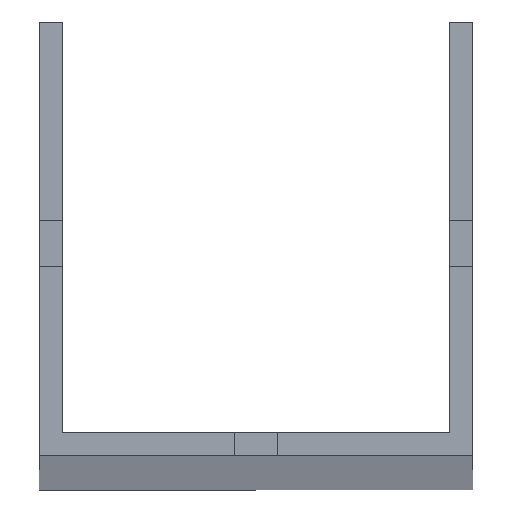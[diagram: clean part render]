
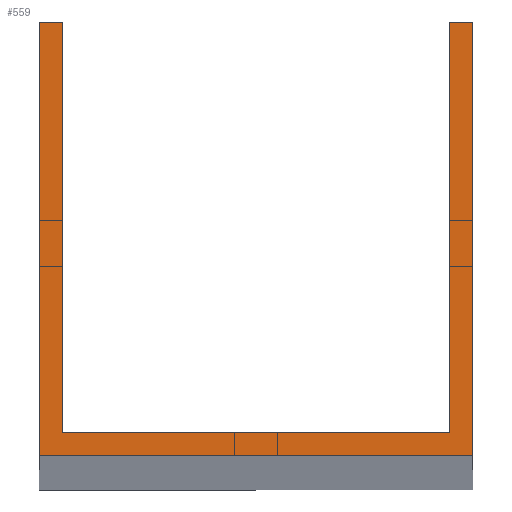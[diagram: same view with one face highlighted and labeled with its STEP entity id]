
A CAD part, top view. The second image highlights one B-rep face of the part: STEP entity #559.
In plain terms, the highlighted planar face has unit normal (0, 0, 1).
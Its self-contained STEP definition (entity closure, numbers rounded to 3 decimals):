
#1 = CARTESIAN_POINT ( 'NONE',  ( 0., 0., 1500. ) ) ;
#3 = VERTEX_POINT ( 'NONE', #555 ) ;
#23 = VERTEX_POINT ( 'NONE', #303 ) ;
#26 = VERTEX_POINT ( 'NONE', #1014 ) ;
#52 = CARTESIAN_POINT ( 'NONE',  ( -29.25, 65.5, 1500. ) ) ;
#55 = ORIENTED_EDGE ( 'NONE', *, *, #286, .T. ) ;
#74 = FACE_OUTER_BOUND ( 'NONE', #969, .T. ) ;
#85 = DIRECTION ( 'NONE',  ( 1., 0., 0. ) ) ;
#97 = LINE ( 'NONE', #835, #357 ) ;
#130 = VERTEX_POINT ( 'NONE', #343 ) ;
#178 = LINE ( 'NONE', #1134, #775 ) ;
#185 = LINE ( 'NONE', #1059, #1025 ) ;
#232 = LINE ( 'NONE', #505, #363 ) ;
#238 = CARTESIAN_POINT ( 'NONE',  ( -29.25, 65.5, 1500. ) ) ;
#286 = EDGE_CURVE ( 'NONE', #130, #564, #185, .T. ) ;
#298 = EDGE_CURVE ( 'NONE', #299, #3, #460, .T. ) ;
#299 = VERTEX_POINT ( 'NONE', #904 ) ;
#303 = CARTESIAN_POINT ( 'NONE',  ( -29.25, 3.5, 1500. ) ) ;
#333 = CARTESIAN_POINT ( 'NONE',  ( 32.75, 65.5, 1500. ) ) ;
#342 = DIRECTION ( 'NONE',  ( 0., 0., 1. ) ) ;
#343 = CARTESIAN_POINT ( 'NONE',  ( -32.75, 65.5, 1500. ) ) ;
#357 = VECTOR ( 'NONE', #1086, 1000. ) ;
#363 = VECTOR ( 'NONE', #924, 1000. ) ;
#396 = ORIENTED_EDGE ( 'NONE', *, *, #880, .F. ) ;
#409 = DIRECTION ( 'NONE',  ( 1., 0., 0. ) ) ;
#433 = CARTESIAN_POINT ( 'NONE',  ( -32.75, 0., 1500. ) ) ;
#460 = LINE ( 'NONE', #536, #668 ) ;
#505 = CARTESIAN_POINT ( 'NONE',  ( -32.75, 3.5, 1500. ) ) ;
#533 = ORIENTED_EDGE ( 'NONE', *, *, #893, .T. ) ;
#536 = CARTESIAN_POINT ( 'NONE',  ( 29.25, 65.5, 1500. ) ) ;
#555 = CARTESIAN_POINT ( 'NONE',  ( 29.25, 65.5, 1500. ) ) ;
#556 = VECTOR ( 'NONE', #697, 1000. ) ;
#559 = ADVANCED_FACE ( 'NONE', ( #74 ), #1052, .T. ) ;
#564 = VERTEX_POINT ( 'NONE', #433 ) ;
#593 = DIRECTION ( 'NONE',  ( -1., 0., 0. ) ) ;
#627 = ORIENTED_EDGE ( 'NONE', *, *, #985, .T. ) ;
#668 = VECTOR ( 'NONE', #1065, 1000. ) ;
#697 = DIRECTION ( 'NONE',  ( 0., -1., 0. ) ) ;
#702 = EDGE_CURVE ( 'NONE', #906, #130, #97, .T. ) ;
#734 = AXIS2_PLACEMENT_3D ( 'NONE', #1, #342, #85 ) ;
#751 = VECTOR ( 'NONE', #943, 1000. ) ;
#763 = VERTEX_POINT ( 'NONE', #913 ) ;
#775 = VECTOR ( 'NONE', #593, 1000. ) ;
#782 = LINE ( 'NONE', #333, #751 ) ;
#834 = ORIENTED_EDGE ( 'NONE', *, *, #850, .T. ) ;
#835 = CARTESIAN_POINT ( 'NONE',  ( -32.75, 65.5, 1500. ) ) ;
#837 = ORIENTED_EDGE ( 'NONE', *, *, #298, .F. ) ;
#839 = LINE ( 'NONE', #929, #1116 ) ;
#850 = EDGE_CURVE ( 'NONE', #564, #26, #839, .T. ) ;
#867 = LINE ( 'NONE', #52, #556 ) ;
#880 = EDGE_CURVE ( 'NONE', #23, #299, #232, .T. ) ;
#893 = EDGE_CURVE ( 'NONE', #26, #763, #782, .T. ) ;
#904 = CARTESIAN_POINT ( 'NONE',  ( 29.25, 3.5, 1500. ) ) ;
#906 = VERTEX_POINT ( 'NONE', #238 ) ;
#913 = CARTESIAN_POINT ( 'NONE',  ( 32.75, 65.5, 1500. ) ) ;
#924 = DIRECTION ( 'NONE',  ( 1., 0., 0. ) ) ;
#929 = CARTESIAN_POINT ( 'NONE',  ( -32.75, 0., 1500. ) ) ;
#943 = DIRECTION ( 'NONE',  ( 0., 1., 0. ) ) ;
#969 = EDGE_LOOP ( 'NONE', ( #1080, #1066, #55, #834, #533, #627, #837, #396 ) ) ;
#982 = DIRECTION ( 'NONE',  ( 0., -1., 0. ) ) ;
#985 = EDGE_CURVE ( 'NONE', #763, #3, #178, .T. ) ;
#1014 = CARTESIAN_POINT ( 'NONE',  ( 32.75, 0., 1500. ) ) ;
#1025 = VECTOR ( 'NONE', #982, 1000. ) ;
#1052 = PLANE ( 'NONE',  #734 ) ;
#1059 = CARTESIAN_POINT ( 'NONE',  ( -32.75, 65.5, 1500. ) ) ;
#1065 = DIRECTION ( 'NONE',  ( 0., 1., 0. ) ) ;
#1066 = ORIENTED_EDGE ( 'NONE', *, *, #702, .T. ) ;
#1080 = ORIENTED_EDGE ( 'NONE', *, *, #1118, .F. ) ;
#1086 = DIRECTION ( 'NONE',  ( -1., 0., 0. ) ) ;
#1116 = VECTOR ( 'NONE', #409, 1000. ) ;
#1118 = EDGE_CURVE ( 'NONE', #906, #23, #867, .T. ) ;
#1134 = CARTESIAN_POINT ( 'NONE',  ( -32.75, 65.5, 1500. ) ) ;
